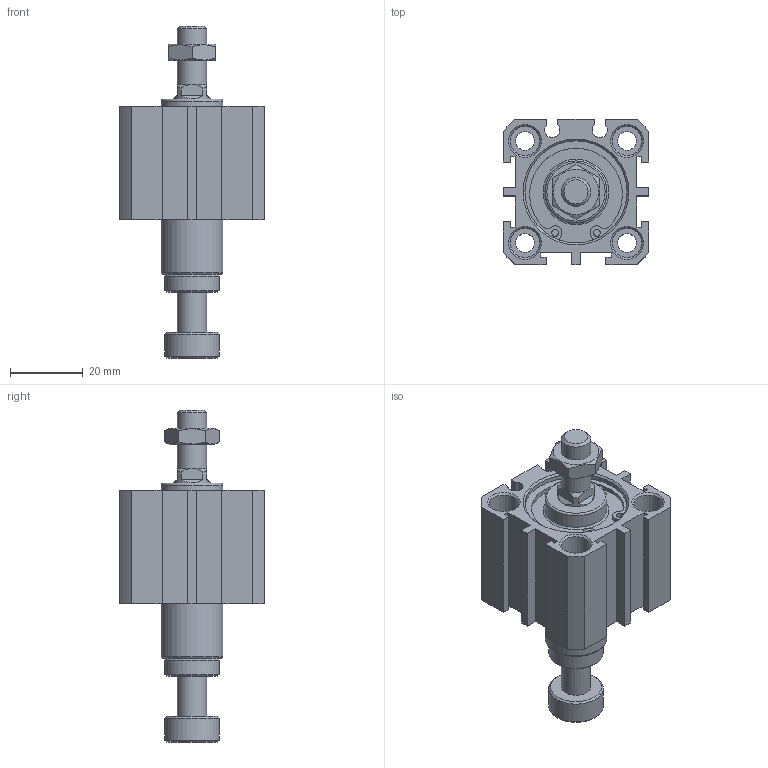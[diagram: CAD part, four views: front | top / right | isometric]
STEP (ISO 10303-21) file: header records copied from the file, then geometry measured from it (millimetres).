
FILE_DESCRIPTION((''),'2;1');
FILE_NAME('I:\3D電子目錄\氣缸\JDAR\JDAR-B\JDAR25-B\JDAR25x10-B.stp','2007-03-14T13:33:13',('662F206'),(''),'Autodesk Inventor 11','Autodesk Inventor 11','');
FILE_SCHEMA(('AUTOMOTIVE_DESIGN { 1 0 10303 214 1 1 1 1 }'));
Length unit declared in the file: millimetre
Products named in the file (3): JDAR25-B; R 形環 28
Assembly tree (3 placements, depth 2):
  JDAR25-B
    JDAR25-B
    R 形環 28  x2
Bounding box: 40 x 40 x 91.1 mm (x, y, z)
Volume: 45014.7 mm3; surface area: 17366.4 mm2
Topology: 3 solids, 3 shells, 175 faces, 406 edges, 263 vertices
Faces by surface type: plane 94, cylinder 50, cone 23, bspline 6, torus 2
Full cylindrical faces by diameter (mm): 1.5 x2, 1.9 x4, 5.1 x4, 8 x11, 10 x1, 15 x2, 17 x2, 28 x4, 29.4 x2
Entity records: 4479 total; most frequent: CARTESIAN_POINT 889, DIRECTION 742, ORIENTED_EDGE 630, EDGE_CURVE 315, AXIS2_PLACEMENT_3D 284, EDGE_LOOP 256, VERTEX_POINT 237, VECTOR 174
